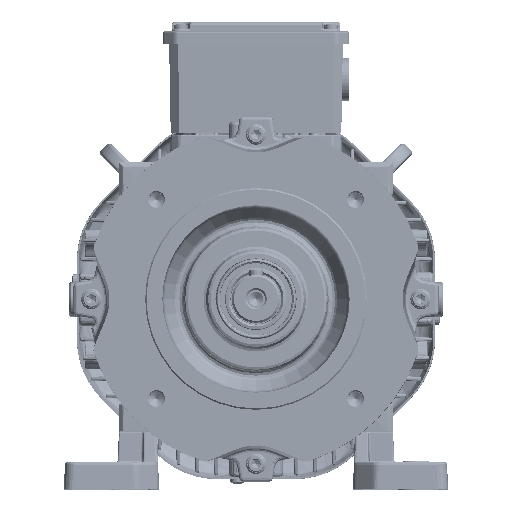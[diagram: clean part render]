
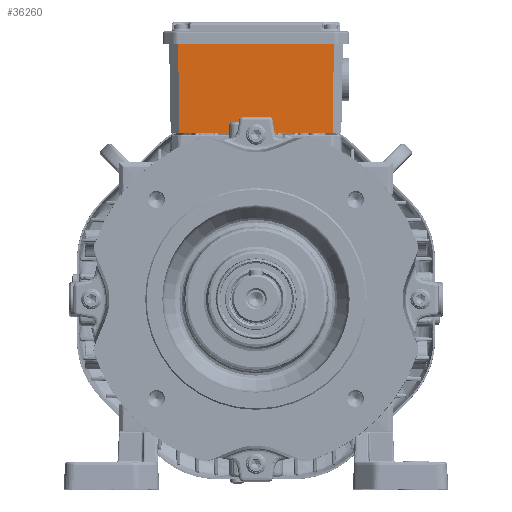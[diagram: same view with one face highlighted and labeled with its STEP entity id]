
A CAD part, top view. The second image highlights one B-rep face of the part: STEP entity #36260.
In plain terms, the highlighted planar face has unit normal (0, -0.018, 1).
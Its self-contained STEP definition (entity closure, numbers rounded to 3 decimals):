
#20596=PLANE('',#225077);
#36260=ADVANCED_FACE('',(#49779),#20596,.T.);
#49779=FACE_OUTER_BOUND('',#63873,.T.);
#63873=EDGE_LOOP('',(#115429,#115430,#115431,#115432));
#115429=ORIENTED_EDGE('',*,*,#169477,.T.);
#115430=ORIENTED_EDGE('',*,*,#169480,.F.);
#115431=ORIENTED_EDGE('',*,*,#169418,.F.);
#115432=ORIENTED_EDGE('',*,*,#169479,.T.);
#141695=VERTEX_POINT('',#419214);
#141696=VERTEX_POINT('',#419216);
#141739=VERTEX_POINT('',#419327);
#141740=VERTEX_POINT('',#419329);
#169418=EDGE_CURVE('',#141695,#141696,#183994,.T.);
#169477=EDGE_CURVE('',#141740,#141739,#184045,.T.);
#169479=EDGE_CURVE('',#141695,#141740,#184047,.T.);
#169480=EDGE_CURVE('',#141696,#141739,#184048,.T.);
#183994=LINE('',#419215,#193673);
#184045=LINE('',#419328,#193724);
#184047=LINE('',#419332,#193726);
#184048=LINE('',#419334,#193727);
#193673=VECTOR('',#275325,1.);
#193724=VECTOR('',#275412,1.);
#193726=VECTOR('',#275416,1.);
#193727=VECTOR('',#275419,1.);
#225077=AXIS2_PLACEMENT_3D('',#419335,#275420,#275421);
#275325=DIRECTION('',(-1.,0.,0.));
#275412=DIRECTION('',(-1.,0.,0.));
#275416=DIRECTION('',(0.007,1.,0.017));
#275419=DIRECTION('',(-0.007,1.,0.017));
#275420=DIRECTION('',(0.,-0.017,1.));
#275421=DIRECTION('',(0.,-1.,-0.017));
#419214=CARTESIAN_POINT('',(45.172,97.5,-16.));
#419215=CARTESIAN_POINT('',(45.172,97.5,-16.));
#419216=CARTESIAN_POINT('',(-45.172,97.5,-16.));
#419327=CARTESIAN_POINT('',(-45.548,149.5,-15.092));
#419328=CARTESIAN_POINT('',(-52.,149.5,-15.092));
#419329=CARTESIAN_POINT('',(45.548,149.5,-15.092));
#419332=CARTESIAN_POINT('',(45.172,97.5,-16.));
#419334=CARTESIAN_POINT('',(-45.172,97.5,-16.));
#419335=CARTESIAN_POINT('',(45.172,97.5,-16.));
